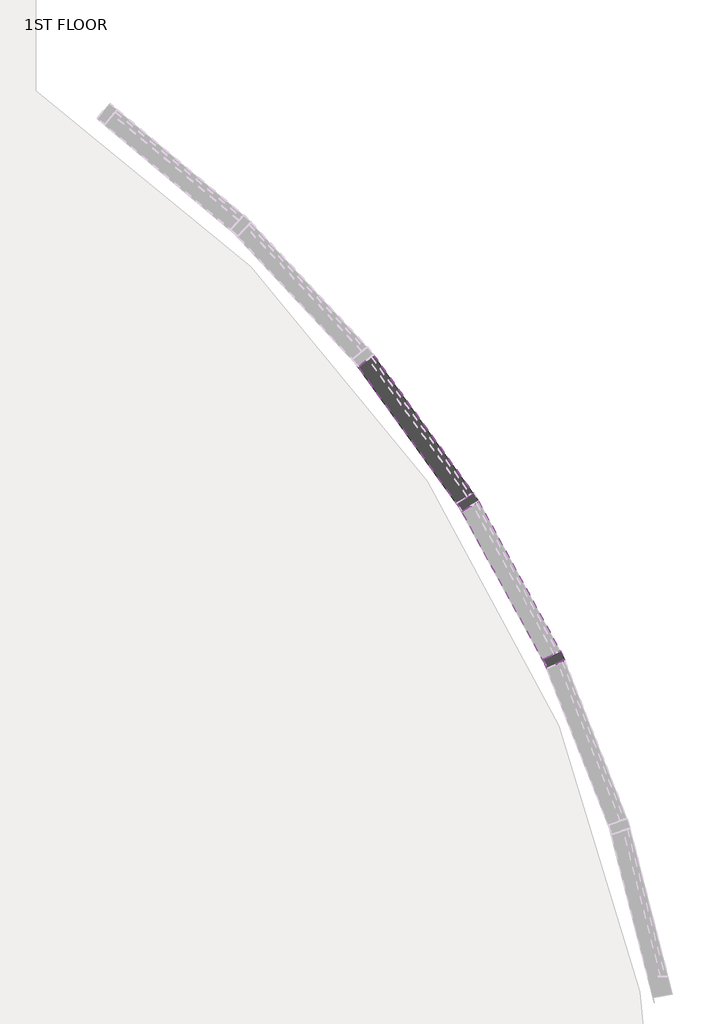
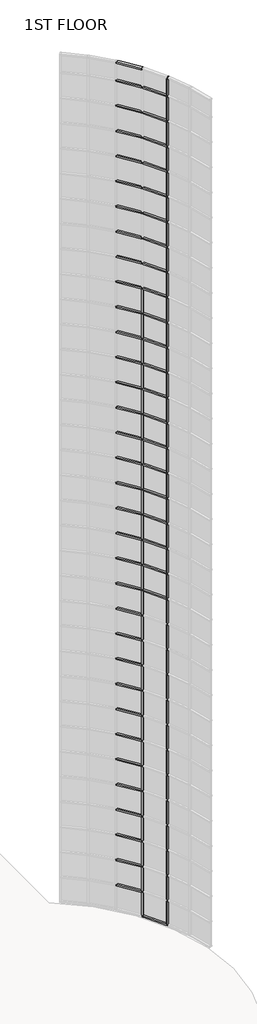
# One storey, part 11 of 17: 115 members.
"""IFC4 building model written with IfcOpenShell, lengths in millimetres."""

from ifc_helpers import new_model, si_unit, origin, place, context, project, spatial, transform, mapped, element, save
from components import member_56cb0dcd, member_0c249660, member_2b49869a, member_410c6227

model = new_model("IFC4")

# Units and contexts
model_context = context("Model", 3, world=origin())
ifc_project = project(units=[si_unit("LENGTHUNIT", "METRE", prefix="MILLI")], contexts=[model_context])

# Site, building, storey
site = spatial("IfcSite", under=ifc_project)
building = spatial("IfcBuilding", under=site)
storey = spatial("IfcBuildingStorey", under=building, Name="1ST FLOOR", Elevation=4572.0)

# Members
placement = place(None, origin())
member_shape = member_56cb0dcd(model_context)
element("IfcMember", 1, ObjectType="Rectangular Mullion : 2.5\" x 5\" rectangular", at=placement, inside=storey, context=model_context, shape_type="MappedRepresentation", body=[
    mapped(member_shape, transform((46823.3203616, 21903.4504082, 45720.0), x_axis=(0.0, 0.0, 1.0), y_axis=(-0.8110758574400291, -0.5849409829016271, 0.0), z_axis=(0.5849409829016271, -0.8110758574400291, 0.0))),
])
element("IfcMember", 2, ObjectType="Rectangular Mullion : 2.5\" x 5\" rectangular", at=placement, inside=storey, context=model_context, shape_type="MappedRepresentation", body=[
    mapped(member_shape, transform((46857.1097029, 21849.8331571, 4572.0), x_axis=(0.0, 0.0, -1.0), y_axis=(-0.8776564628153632, -0.4792902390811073, 0.0), z_axis=(-0.4792902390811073, 0.8776564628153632, 0.0))),
])
member_2_shape = member_0c249660(model_context)
element("IfcMember", 3, ObjectType="Rectangular Mullion : 2.5\" x 5\" rectangular", at=placement, inside=storey, context=model_context, shape_type="MappedRepresentation", body=[
    mapped(member_2_shape, transform((46823.3203616, 21903.4504082, 5791.2), x_axis=(0.0, 0.0, 1.0), y_axis=(-0.8110758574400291, -0.5849409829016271, 0.0), z_axis=(0.5849409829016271, -0.8110758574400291, 0.0))),
])
element("IfcMember", 4, ObjectType="Rectangular Mullion : 2.5\" x 5\" rectangular", at=placement, inside=storey, context=model_context, shape_type="MappedRepresentation", body=[
    mapped(member_2_shape, transform((46823.3203616, 21903.4504082, 7010.4), x_axis=(0.0, 0.0, 1.0), y_axis=(-0.8110758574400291, -0.5849409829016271, 0.0), z_axis=(0.5849409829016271, -0.8110758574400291, 0.0))),
])
element("IfcMember", 5, ObjectType="Rectangular Mullion : 2.5\" x 5\" rectangular", at=placement, inside=storey, context=model_context, shape_type="MappedRepresentation", body=[
    mapped(member_2_shape, transform((46823.3203616, 21903.4504082, 8229.6), x_axis=(0.0, 0.0, 1.0), y_axis=(-0.8110758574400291, -0.5849409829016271, 0.0), z_axis=(0.5849409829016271, -0.8110758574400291, 0.0))),
])
element("IfcMember", 6, ObjectType="Rectangular Mullion : 2.5\" x 5\" rectangular", at=placement, inside=storey, context=model_context, shape_type="MappedRepresentation", body=[
    mapped(member_2_shape, transform((46823.3203616, 21903.4504082, 9448.8), x_axis=(0.0, 0.0, 1.0), y_axis=(-0.8110758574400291, -0.5849409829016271, 0.0), z_axis=(0.5849409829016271, -0.8110758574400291, 0.0))),
])
element("IfcMember", 7, ObjectType="Rectangular Mullion : 2.5\" x 5\" rectangular", at=placement, inside=storey, context=model_context, shape_type="MappedRepresentation", body=[
    mapped(member_2_shape, transform((46823.3203616, 21903.4504082, 10668.0), x_axis=(0.0, 0.0, 1.0), y_axis=(-0.8110758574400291, -0.5849409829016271, 0.0), z_axis=(0.5849409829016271, -0.8110758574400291, 0.0))),
])
element("IfcMember", 8, ObjectType="Rectangular Mullion : 2.5\" x 5\" rectangular", at=placement, inside=storey, context=model_context, shape_type="MappedRepresentation", body=[
    mapped(member_2_shape, transform((46823.3203616, 21903.4504082, 11887.2), x_axis=(0.0, 0.0, 1.0), y_axis=(-0.8110758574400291, -0.5849409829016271, 0.0), z_axis=(0.5849409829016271, -0.8110758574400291, 0.0))),
])
element("IfcMember", 9, ObjectType="Rectangular Mullion : 2.5\" x 5\" rectangular", at=placement, inside=storey, context=model_context, shape_type="MappedRepresentation", body=[
    mapped(member_2_shape, transform((46823.3203616, 21903.4504082, 13106.4), x_axis=(0.0, 0.0, 1.0), y_axis=(-0.8110758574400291, -0.5849409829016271, 0.0), z_axis=(0.5849409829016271, -0.8110758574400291, 0.0))),
])
element("IfcMember", 10, ObjectType="Rectangular Mullion : 2.5\" x 5\" rectangular", at=placement, inside=storey, context=model_context, shape_type="MappedRepresentation", body=[
    mapped(member_2_shape, transform((46823.3203616, 21903.4504082, 14325.6), x_axis=(0.0, 0.0, 1.0), y_axis=(-0.8110758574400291, -0.5849409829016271, 0.0), z_axis=(0.5849409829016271, -0.8110758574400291, 0.0))),
])
element("IfcMember", 11, ObjectType="Rectangular Mullion : 2.5\" x 5\" rectangular", at=placement, inside=storey, context=model_context, shape_type="MappedRepresentation", body=[
    mapped(member_2_shape, transform((46823.3203616, 21903.4504082, 15544.8), x_axis=(0.0, 0.0, 1.0), y_axis=(-0.8110758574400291, -0.5849409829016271, 0.0), z_axis=(0.5849409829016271, -0.8110758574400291, 0.0))),
])
element("IfcMember", 12, ObjectType="Rectangular Mullion : 2.5\" x 5\" rectangular", at=placement, inside=storey, context=model_context, shape_type="MappedRepresentation", body=[
    mapped(member_2_shape, transform((46823.3203616, 21903.4504082, 16764.0), x_axis=(0.0, 0.0, 1.0), y_axis=(-0.8110758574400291, -0.5849409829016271, 0.0), z_axis=(0.5849409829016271, -0.8110758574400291, 0.0))),
])
element("IfcMember", 13, ObjectType="Rectangular Mullion : 2.5\" x 5\" rectangular", at=placement, inside=storey, context=model_context, shape_type="MappedRepresentation", body=[
    mapped(member_2_shape, transform((46823.3203616, 21903.4504082, 17983.2), x_axis=(0.0, 0.0, 1.0), y_axis=(-0.8110758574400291, -0.5849409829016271, 0.0), z_axis=(0.5849409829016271, -0.8110758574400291, 0.0))),
])
element("IfcMember", 14, ObjectType="Rectangular Mullion : 2.5\" x 5\" rectangular", at=placement, inside=storey, context=model_context, shape_type="MappedRepresentation", body=[
    mapped(member_2_shape, transform((46823.3203616, 21903.4504082, 19202.4), x_axis=(0.0, 0.0, 1.0), y_axis=(-0.8110758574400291, -0.5849409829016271, 0.0), z_axis=(0.5849409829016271, -0.8110758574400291, 0.0))),
])
element("IfcMember", 15, ObjectType="Rectangular Mullion : 2.5\" x 5\" rectangular", at=placement, inside=storey, context=model_context, shape_type="MappedRepresentation", body=[
    mapped(member_2_shape, transform((46823.3203616, 21903.4504082, 20421.6), x_axis=(0.0, 0.0, 1.0), y_axis=(-0.8110758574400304, -0.5849409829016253, 0.0), z_axis=(0.5849409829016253, -0.8110758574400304, 0.0))),
])
element("IfcMember", 16, ObjectType="Rectangular Mullion : 2.5\" x 5\" rectangular", at=placement, inside=storey, context=model_context, shape_type="MappedRepresentation", body=[
    mapped(member_2_shape, transform((47383.2901045, 20886.3133681, 20421.6), x_axis=(0.0, 0.0, 1.0), y_axis=(-0.87765646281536, -0.479290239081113, 0.0), z_axis=(0.479290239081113, -0.87765646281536, 0.0))),
])
element("IfcMember", 17, ObjectType="Rectangular Mullion : 2.5\" x 5\" rectangular", at=placement, inside=storey, context=model_context, shape_type="MappedRepresentation", body=[
    mapped(member_2_shape, transform((46823.3203616, 21903.4504082, 21640.8), x_axis=(0.0, 0.0, 1.0), y_axis=(-0.8110758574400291, -0.5849409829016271, 0.0), z_axis=(0.5849409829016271, -0.8110758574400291, 0.0))),
])
element("IfcMember", 18, ObjectType="Rectangular Mullion : 2.5\" x 5\" rectangular", at=placement, inside=storey, context=model_context, shape_type="MappedRepresentation", body=[
    mapped(member_2_shape, transform((47383.2901045, 20886.3133681, 21640.8), x_axis=(0.0, 0.0, 1.0), y_axis=(-0.8776564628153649, -0.47929023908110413, 0.0), z_axis=(0.47929023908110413, -0.8776564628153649, 0.0))),
])
element("IfcMember", 19, ObjectType="Rectangular Mullion : 2.5\" x 5\" rectangular", at=placement, inside=storey, context=model_context, shape_type="MappedRepresentation", body=[
    mapped(member_2_shape, transform((46823.3203616, 21903.4504082, 22860.0), x_axis=(0.0, 0.0, 1.0), y_axis=(-0.8110758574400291, -0.5849409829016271, 0.0), z_axis=(0.5849409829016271, -0.8110758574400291, 0.0))),
])
element("IfcMember", 20, ObjectType="Rectangular Mullion : 2.5\" x 5\" rectangular", at=placement, inside=storey, context=model_context, shape_type="MappedRepresentation", body=[
    mapped(member_2_shape, transform((47383.2901045, 20886.3133681, 22860.0), x_axis=(0.0, 0.0, 1.0), y_axis=(-0.8776564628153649, -0.47929023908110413, 0.0), z_axis=(0.47929023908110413, -0.8776564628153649, 0.0))),
])
element("IfcMember", 21, ObjectType="Rectangular Mullion : 2.5\" x 5\" rectangular", at=placement, inside=storey, context=model_context, shape_type="MappedRepresentation", body=[
    mapped(member_2_shape, transform((46823.3203616, 21903.4504082, 24079.2), x_axis=(0.0, 0.0, 1.0), y_axis=(-0.8110758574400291, -0.5849409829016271, 0.0), z_axis=(0.5849409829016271, -0.8110758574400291, 0.0))),
])
element("IfcMember", 22, ObjectType="Rectangular Mullion : 2.5\" x 5\" rectangular", at=placement, inside=storey, context=model_context, shape_type="MappedRepresentation", body=[
    mapped(member_2_shape, transform((47383.2901045, 20886.3133681, 24079.2), x_axis=(0.0, 0.0, 1.0), y_axis=(-0.8776564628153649, -0.47929023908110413, 0.0), z_axis=(0.47929023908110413, -0.8776564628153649, 0.0))),
])
element("IfcMember", 23, ObjectType="Rectangular Mullion : 2.5\" x 5\" rectangular", at=placement, inside=storey, context=model_context, shape_type="MappedRepresentation", body=[
    mapped(member_2_shape, transform((46823.3203616, 21903.4504082, 25298.4), x_axis=(0.0, 0.0, 1.0), y_axis=(-0.8110758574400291, -0.5849409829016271, 0.0), z_axis=(0.5849409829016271, -0.8110758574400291, 0.0))),
])
element("IfcMember", 24, ObjectType="Rectangular Mullion : 2.5\" x 5\" rectangular", at=placement, inside=storey, context=model_context, shape_type="MappedRepresentation", body=[
    mapped(member_2_shape, transform((47383.2901045, 20886.3133681, 25298.4), x_axis=(0.0, 0.0, 1.0), y_axis=(-0.8776564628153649, -0.47929023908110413, 0.0), z_axis=(0.47929023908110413, -0.8776564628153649, 0.0))),
])
element("IfcMember", 25, ObjectType="Rectangular Mullion : 2.5\" x 5\" rectangular", at=placement, inside=storey, context=model_context, shape_type="MappedRepresentation", body=[
    mapped(member_2_shape, transform((46823.3203616, 21903.4504082, 26517.6), x_axis=(0.0, 0.0, 1.0), y_axis=(-0.8110758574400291, -0.5849409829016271, 0.0), z_axis=(0.5849409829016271, -0.8110758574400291, 0.0))),
])
element("IfcMember", 26, ObjectType="Rectangular Mullion : 2.5\" x 5\" rectangular", at=placement, inside=storey, context=model_context, shape_type="MappedRepresentation", body=[
    mapped(member_2_shape, transform((47383.2901045, 20886.3133681, 26517.6), x_axis=(0.0, 0.0, 1.0), y_axis=(-0.87765646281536, -0.479290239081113, 0.0), z_axis=(0.479290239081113, -0.87765646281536, 0.0))),
])
element("IfcMember", 27, ObjectType="Rectangular Mullion : 2.5\" x 5\" rectangular", at=placement, inside=storey, context=model_context, shape_type="MappedRepresentation", body=[
    mapped(member_2_shape, transform((46823.3203616, 21903.4504082, 27736.8), x_axis=(0.0, 0.0, 1.0), y_axis=(-0.8110758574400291, -0.5849409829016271, 0.0), z_axis=(0.5849409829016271, -0.8110758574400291, 0.0))),
])
element("IfcMember", 28, ObjectType="Rectangular Mullion : 2.5\" x 5\" rectangular", at=placement, inside=storey, context=model_context, shape_type="MappedRepresentation", body=[
    mapped(member_2_shape, transform((47383.2901045, 20886.3133681, 27736.8), x_axis=(0.0, 0.0, 1.0), y_axis=(-0.87765646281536, -0.479290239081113, 0.0), z_axis=(0.479290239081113, -0.87765646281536, 0.0))),
])
element("IfcMember", 29, ObjectType="Rectangular Mullion : 2.5\" x 5\" rectangular", at=placement, inside=storey, context=model_context, shape_type="MappedRepresentation", body=[
    mapped(member_2_shape, transform((46823.3203616, 21903.4504082, 28956.0), x_axis=(0.0, 0.0, 1.0), y_axis=(-0.8110758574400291, -0.5849409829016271, 0.0), z_axis=(0.5849409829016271, -0.8110758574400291, 0.0))),
])
element("IfcMember", 30, ObjectType="Rectangular Mullion : 2.5\" x 5\" rectangular", at=placement, inside=storey, context=model_context, shape_type="MappedRepresentation", body=[
    mapped(member_2_shape, transform((47383.2901045, 20886.3133681, 28956.0), x_axis=(0.0, 0.0, 1.0), y_axis=(-0.8776564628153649, -0.47929023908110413, 0.0), z_axis=(0.47929023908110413, -0.8776564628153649, 0.0))),
])
element("IfcMember", 31, ObjectType="Rectangular Mullion : 2.5\" x 5\" rectangular", at=placement, inside=storey, context=model_context, shape_type="MappedRepresentation", body=[
    mapped(member_2_shape, transform((46823.3203616, 21903.4504082, 30175.2), x_axis=(0.0, 0.0, 1.0), y_axis=(-0.8110758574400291, -0.5849409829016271, 0.0), z_axis=(0.5849409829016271, -0.8110758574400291, 0.0))),
])
element("IfcMember", 32, ObjectType="Rectangular Mullion : 2.5\" x 5\" rectangular", at=placement, inside=storey, context=model_context, shape_type="MappedRepresentation", body=[
    mapped(member_2_shape, transform((47383.2901045, 20886.3133681, 30175.2), x_axis=(0.0, 0.0, 1.0), y_axis=(-0.8776564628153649, -0.47929023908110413, 0.0), z_axis=(0.47929023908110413, -0.8776564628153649, 0.0))),
])
element("IfcMember", 33, ObjectType="Rectangular Mullion : 2.5\" x 5\" rectangular", at=placement, inside=storey, context=model_context, shape_type="MappedRepresentation", body=[
    mapped(member_2_shape, transform((46823.3203616, 21903.4504082, 31394.4), x_axis=(0.0, 0.0, 1.0), y_axis=(-0.8110758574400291, -0.5849409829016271, 0.0), z_axis=(0.5849409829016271, -0.8110758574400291, 0.0))),
])
element("IfcMember", 34, ObjectType="Rectangular Mullion : 2.5\" x 5\" rectangular", at=placement, inside=storey, context=model_context, shape_type="MappedRepresentation", body=[
    mapped(member_2_shape, transform((47383.2901045, 20886.3133681, 31394.4), x_axis=(0.0, 0.0, 1.0), y_axis=(-0.8776564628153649, -0.47929023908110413, 0.0), z_axis=(0.47929023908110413, -0.8776564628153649, 0.0))),
])
element("IfcMember", 35, ObjectType="Rectangular Mullion : 2.5\" x 5\" rectangular", at=placement, inside=storey, context=model_context, shape_type="MappedRepresentation", body=[
    mapped(member_2_shape, transform((46823.3203616, 21903.4504082, 32613.6), x_axis=(0.0, 0.0, 1.0), y_axis=(-0.8110758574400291, -0.5849409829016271, 0.0), z_axis=(0.5849409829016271, -0.8110758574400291, 0.0))),
])
element("IfcMember", 36, ObjectType="Rectangular Mullion : 2.5\" x 5\" rectangular", at=placement, inside=storey, context=model_context, shape_type="MappedRepresentation", body=[
    mapped(member_2_shape, transform((47383.2901045, 20886.3133681, 32613.6), x_axis=(0.0, 0.0, 1.0), y_axis=(-0.87765646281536, -0.479290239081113, 0.0), z_axis=(0.479290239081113, -0.87765646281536, 0.0))),
])
element("IfcMember", 37, ObjectType="Rectangular Mullion : 2.5\" x 5\" rectangular", at=placement, inside=storey, context=model_context, shape_type="MappedRepresentation", body=[
    mapped(member_2_shape, transform((46823.3203616, 21903.4504082, 33832.8), x_axis=(0.0, 0.0, 1.0), y_axis=(-0.8110758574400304, -0.5849409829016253, 0.0), z_axis=(0.5849409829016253, -0.8110758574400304, 0.0))),
])
element("IfcMember", 38, ObjectType="Rectangular Mullion : 2.5\" x 5\" rectangular", at=placement, inside=storey, context=model_context, shape_type="MappedRepresentation", body=[
    mapped(member_2_shape, transform((47383.2901045, 20886.3133681, 33832.8), x_axis=(0.0, 0.0, 1.0), y_axis=(-0.87765646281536, -0.479290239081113, 0.0), z_axis=(0.479290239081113, -0.87765646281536, 0.0))),
])
element("IfcMember", 39, ObjectType="Rectangular Mullion : 2.5\" x 5\" rectangular", at=placement, inside=storey, context=model_context, shape_type="MappedRepresentation", body=[
    mapped(member_2_shape, transform((46823.3203616, 21903.4504082, 35052.0), x_axis=(0.0, 0.0, 1.0), y_axis=(-0.8110758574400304, -0.5849409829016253, 0.0), z_axis=(0.5849409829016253, -0.8110758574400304, 0.0))),
])
element("IfcMember", 40, ObjectType="Rectangular Mullion : 2.5\" x 5\" rectangular", at=placement, inside=storey, context=model_context, shape_type="MappedRepresentation", body=[
    mapped(member_2_shape, transform((47383.2901045, 20886.3133681, 35052.0), x_axis=(0.0, 0.0, 1.0), y_axis=(-0.8776564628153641, -0.47929023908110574, 0.0), z_axis=(0.4792902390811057, -0.877656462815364, 0.0))),
])
element("IfcMember", 41, ObjectType="Rectangular Mullion : 2.5\" x 5\" rectangular", at=placement, inside=storey, context=model_context, shape_type="MappedRepresentation", body=[
    mapped(member_2_shape, transform((46823.3203616, 21903.4504082, 36271.2), x_axis=(0.0, 0.0, 1.0), y_axis=(-0.8110758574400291, -0.5849409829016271, 0.0), z_axis=(0.5849409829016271, -0.8110758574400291, 0.0))),
])
element("IfcMember", 42, ObjectType="Rectangular Mullion : 2.5\" x 5\" rectangular", at=placement, inside=storey, context=model_context, shape_type="MappedRepresentation", body=[
    mapped(member_2_shape, transform((47383.2901045, 20886.3133681, 36271.2), x_axis=(0.0, 0.0, 1.0), y_axis=(-0.87765646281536, -0.479290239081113, 0.0), z_axis=(0.479290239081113, -0.87765646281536, 0.0))),
])
element("IfcMember", 43, ObjectType="Rectangular Mullion : 2.5\" x 5\" rectangular", at=placement, inside=storey, context=model_context, shape_type="MappedRepresentation", body=[
    mapped(member_2_shape, transform((46823.3203616, 21903.4504082, 37490.4), x_axis=(0.0, 0.0, 1.0), y_axis=(-0.8110758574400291, -0.5849409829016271, 0.0), z_axis=(0.5849409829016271, -0.8110758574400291, 0.0))),
])
element("IfcMember", 44, ObjectType="Rectangular Mullion : 2.5\" x 5\" rectangular", at=placement, inside=storey, context=model_context, shape_type="MappedRepresentation", body=[
    mapped(member_2_shape, transform((47383.2901045, 20886.3133681, 37490.4), x_axis=(0.0, 0.0, 1.0), y_axis=(-0.87765646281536, -0.479290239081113, 0.0), z_axis=(0.479290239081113, -0.87765646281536, 0.0))),
])
element("IfcMember", 45, ObjectType="Rectangular Mullion : 2.5\" x 5\" rectangular", at=placement, inside=storey, context=model_context, shape_type="MappedRepresentation", body=[
    mapped(member_2_shape, transform((46823.3203616, 21903.4504082, 38709.6), x_axis=(0.0, 0.0, 1.0), y_axis=(-0.8110758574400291, -0.5849409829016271, 0.0), z_axis=(0.5849409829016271, -0.8110758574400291, 0.0))),
])
element("IfcMember", 46, ObjectType="Rectangular Mullion : 2.5\" x 5\" rectangular", at=placement, inside=storey, context=model_context, shape_type="MappedRepresentation", body=[
    mapped(member_2_shape, transform((47383.2901045, 20886.3133681, 38709.6), x_axis=(0.0, 0.0, 1.0), y_axis=(-0.87765646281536, -0.479290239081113, 0.0), z_axis=(0.479290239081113, -0.87765646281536, 0.0))),
])
element("IfcMember", 47, ObjectType="Rectangular Mullion : 2.5\" x 5\" rectangular", at=placement, inside=storey, context=model_context, shape_type="MappedRepresentation", body=[
    mapped(member_2_shape, transform((46823.3203616, 21903.4504082, 39928.8), x_axis=(0.0, 0.0, 1.0), y_axis=(-0.8110758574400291, -0.5849409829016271, 0.0), z_axis=(0.5849409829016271, -0.8110758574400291, 0.0))),
])
element("IfcMember", 48, ObjectType="Rectangular Mullion : 2.5\" x 5\" rectangular", at=placement, inside=storey, context=model_context, shape_type="MappedRepresentation", body=[
    mapped(member_2_shape, transform((47383.2901045, 20886.3133681, 39928.8), x_axis=(0.0, 0.0, 1.0), y_axis=(-0.87765646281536, -0.479290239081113, 0.0), z_axis=(0.479290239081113, -0.87765646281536, 0.0))),
])
element("IfcMember", 49, ObjectType="Rectangular Mullion : 2.5\" x 5\" rectangular", at=placement, inside=storey, context=model_context, shape_type="MappedRepresentation", body=[
    mapped(member_2_shape, transform((46823.3203616, 21903.4504082, 41148.0), x_axis=(0.0, 0.0, 1.0), y_axis=(-0.8110758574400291, -0.5849409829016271, 0.0), z_axis=(0.5849409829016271, -0.8110758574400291, 0.0))),
])
element("IfcMember", 50, ObjectType="Rectangular Mullion : 2.5\" x 5\" rectangular", at=placement, inside=storey, context=model_context, shape_type="MappedRepresentation", body=[
    mapped(member_2_shape, transform((47383.2901045, 20886.3133681, 41148.0), x_axis=(0.0, 0.0, 1.0), y_axis=(-0.87765646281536, -0.479290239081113, 0.0), z_axis=(0.479290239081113, -0.87765646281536, 0.0))),
])
element("IfcMember", 51, ObjectType="Rectangular Mullion : 2.5\" x 5\" rectangular", at=placement, inside=storey, context=model_context, shape_type="MappedRepresentation", body=[
    mapped(member_2_shape, transform((46823.3203616, 21903.4504082, 42367.2), x_axis=(0.0, 0.0, 1.0), y_axis=(-0.8110758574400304, -0.5849409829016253, 0.0), z_axis=(0.5849409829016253, -0.8110758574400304, 0.0))),
])
element("IfcMember", 52, ObjectType="Rectangular Mullion : 2.5\" x 5\" rectangular", at=placement, inside=storey, context=model_context, shape_type="MappedRepresentation", body=[
    mapped(member_2_shape, transform((47383.2901045, 20886.3133681, 42367.2), x_axis=(0.0, 0.0, 1.0), y_axis=(-0.87765646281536, -0.479290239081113, 0.0), z_axis=(0.479290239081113, -0.87765646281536, 0.0))),
])
element("IfcMember", 53, ObjectType="Rectangular Mullion : 2.5\" x 5\" rectangular", at=placement, inside=storey, context=model_context, shape_type="MappedRepresentation", body=[
    mapped(member_2_shape, transform((46823.3203616, 21903.4504082, 43586.4), x_axis=(0.0, 0.0, 1.0), y_axis=(-0.8110758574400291, -0.5849409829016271, 0.0), z_axis=(0.5849409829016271, -0.8110758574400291, 0.0))),
])
element("IfcMember", 54, ObjectType="Rectangular Mullion : 2.5\" x 5\" rectangular", at=placement, inside=storey, context=model_context, shape_type="MappedRepresentation", body=[
    mapped(member_2_shape, transform((47383.2901045, 20886.3133681, 43586.4), x_axis=(0.0, 0.0, 1.0), y_axis=(-0.87765646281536, -0.479290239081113, 0.0), z_axis=(0.479290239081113, -0.87765646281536, 0.0))),
])
element("IfcMember", 55, ObjectType="Rectangular Mullion : 2.5\" x 5\" rectangular", at=placement, inside=storey, context=model_context, shape_type="MappedRepresentation", body=[
    mapped(member_2_shape, transform((46823.3203616, 21903.4504082, 44805.6), x_axis=(0.0, 0.0, 1.0), y_axis=(-0.8110758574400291, -0.5849409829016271, 0.0), z_axis=(0.5849409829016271, -0.8110758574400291, 0.0))),
])
element("IfcMember", 56, ObjectType="Rectangular Mullion : 2.5\" x 5\" rectangular", at=placement, inside=storey, context=model_context, shape_type="MappedRepresentation", body=[
    mapped(member_2_shape, transform((47383.2901045, 20886.3133681, 44805.6), x_axis=(0.0, 0.0, 1.0), y_axis=(-0.8776564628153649, -0.47929023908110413, 0.0), z_axis=(0.47929023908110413, -0.8776564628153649, 0.0))),
])
member_3_shape = member_2b49869a(model_context)
element("IfcMember", 57, ObjectType="Rectangular Mullion : 2.5\" x 5\" rectangular", at=placement, inside=storey, context=model_context, shape_type="MappedRepresentation", body=[
    mapped(member_3_shape, transform((46841.8922379, 21877.6987498, 4572.0), x_axis=(0.5331559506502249, -0.846016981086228, 0.0), y_axis=(-0.846016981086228, -0.5331559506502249, 0.0), z_axis=(0.0, 0.0, -1.0))),
])
element("IfcMember", 58, ObjectType="Rectangular Mullion : 2.5\" x 5\" rectangular", at=placement, inside=storey, context=model_context, shape_type="MappedRepresentation", body=[
    mapped(member_3_shape, transform((47398.5075696, 20858.4477754, 4572.0), x_axis=(0.42355406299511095, -0.9058708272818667, 0.0), y_axis=(-0.9058708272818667, -0.42355406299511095, 0.0), z_axis=(0.0, 0.0, -1.0))),
])
element("IfcMember", 59, ObjectType="Rectangular Mullion : 2.5\" x 5\" rectangular", at=placement, inside=storey, context=model_context, shape_type="MappedRepresentation", body=[
    mapped(member_3_shape, transform((46841.8922379, 21877.6987498, 5791.2), x_axis=(0.5331559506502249, -0.846016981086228, 0.0), y_axis=(-0.846016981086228, -0.5331559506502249, 0.0), z_axis=(0.0, 0.0, -1.0))),
])
element("IfcMember", 60, ObjectType="Rectangular Mullion : 2.5\" x 5\" rectangular", at=placement, inside=storey, context=model_context, shape_type="MappedRepresentation", body=[
    mapped(member_3_shape, transform((47398.5075696, 20858.4477754, 5791.2), x_axis=(0.42355406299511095, -0.9058708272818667, 0.0), y_axis=(-0.9058708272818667, -0.42355406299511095, 0.0), z_axis=(0.0, 0.0, -1.0))),
])
element("IfcMember", 61, ObjectType="Rectangular Mullion : 2.5\" x 5\" rectangular", at=placement, inside=storey, context=model_context, shape_type="MappedRepresentation", body=[
    mapped(member_3_shape, transform((46841.8922379, 21877.6987498, 7010.4), x_axis=(0.5331559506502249, -0.846016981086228, 0.0), y_axis=(-0.846016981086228, -0.5331559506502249, 0.0), z_axis=(0.0, 0.0, -1.0))),
])
element("IfcMember", 62, ObjectType="Rectangular Mullion : 2.5\" x 5\" rectangular", at=placement, inside=storey, context=model_context, shape_type="MappedRepresentation", body=[
    mapped(member_3_shape, transform((47398.5075696, 20858.4477754, 7010.4), x_axis=(0.4235540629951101, -0.9058708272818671, 0.0), y_axis=(-0.9058708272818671, -0.4235540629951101, 0.0), z_axis=(0.0, 0.0, -1.0))),
])
element("IfcMember", 63, ObjectType="Rectangular Mullion : 2.5\" x 5\" rectangular", at=placement, inside=storey, context=model_context, shape_type="MappedRepresentation", body=[
    mapped(member_3_shape, transform((46841.8922379, 21877.6987498, 8229.6), x_axis=(0.5331559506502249, -0.846016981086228, 0.0), y_axis=(-0.846016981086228, -0.5331559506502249, 0.0), z_axis=(0.0, 0.0, -1.0))),
])
element("IfcMember", 64, ObjectType="Rectangular Mullion : 2.5\" x 5\" rectangular", at=placement, inside=storey, context=model_context, shape_type="MappedRepresentation", body=[
    mapped(member_3_shape, transform((47398.5075696, 20858.4477754, 8229.6), x_axis=(0.42355406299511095, -0.9058708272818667, 0.0), y_axis=(-0.9058708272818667, -0.42355406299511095, 0.0), z_axis=(0.0, 0.0, -1.0))),
])
element("IfcMember", 65, ObjectType="Rectangular Mullion : 2.5\" x 5\" rectangular", at=placement, inside=storey, context=model_context, shape_type="MappedRepresentation", body=[
    mapped(member_3_shape, transform((46841.8922379, 21877.6987498, 9448.8), x_axis=(0.5331559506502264, -0.846016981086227, 0.0), y_axis=(-0.846016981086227, -0.5331559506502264, 0.0), z_axis=(0.0, 0.0, -1.0))),
])
element("IfcMember", 66, ObjectType="Rectangular Mullion : 2.5\" x 5\" rectangular", at=placement, inside=storey, context=model_context, shape_type="MappedRepresentation", body=[
    mapped(member_3_shape, transform((47398.5075696, 20858.4477754, 9448.8), x_axis=(0.4235540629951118, -0.9058708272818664, 0.0), y_axis=(-0.9058708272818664, -0.4235540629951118, 0.0), z_axis=(0.0, 0.0, -1.0))),
])
element("IfcMember", 67, ObjectType="Rectangular Mullion : 2.5\" x 5\" rectangular", at=placement, inside=storey, context=model_context, shape_type="MappedRepresentation", body=[
    mapped(member_3_shape, transform((46841.8922379, 21877.6987498, 10668.0), x_axis=(0.5331559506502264, -0.846016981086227, 0.0), y_axis=(-0.846016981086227, -0.5331559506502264, 0.0), z_axis=(0.0, 0.0, -1.0))),
])
element("IfcMember", 68, ObjectType="Rectangular Mullion : 2.5\" x 5\" rectangular", at=placement, inside=storey, context=model_context, shape_type="MappedRepresentation", body=[
    mapped(member_3_shape, transform((47398.5075696, 20858.4477754, 10668.0), x_axis=(0.4235540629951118, -0.9058708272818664, 0.0), y_axis=(-0.9058708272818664, -0.4235540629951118, 0.0), z_axis=(0.0, 0.0, -1.0))),
])
element("IfcMember", 69, ObjectType="Rectangular Mullion : 2.5\" x 5\" rectangular", at=placement, inside=storey, context=model_context, shape_type="MappedRepresentation", body=[
    mapped(member_3_shape, transform((46841.8922379, 21877.6987498, 11887.2), x_axis=(0.5331559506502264, -0.846016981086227, 0.0), y_axis=(-0.846016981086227, -0.5331559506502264, 0.0), z_axis=(0.0, 0.0, -1.0))),
])
element("IfcMember", 70, ObjectType="Rectangular Mullion : 2.5\" x 5\" rectangular", at=placement, inside=storey, context=model_context, shape_type="MappedRepresentation", body=[
    mapped(member_3_shape, transform((47398.5075696, 20858.4477754, 11887.2), x_axis=(0.4235540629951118, -0.9058708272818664, 0.0), y_axis=(-0.9058708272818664, -0.4235540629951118, 0.0), z_axis=(0.0, 0.0, -1.0))),
])
element("IfcMember", 71, ObjectType="Rectangular Mullion : 2.5\" x 5\" rectangular", at=placement, inside=storey, context=model_context, shape_type="MappedRepresentation", body=[
    mapped(member_3_shape, transform((46841.8922379, 21877.6987498, 13106.4), x_axis=(0.5331559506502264, -0.846016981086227, 0.0), y_axis=(-0.846016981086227, -0.5331559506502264, 0.0), z_axis=(0.0, 0.0, -1.0))),
])
element("IfcMember", 72, ObjectType="Rectangular Mullion : 2.5\" x 5\" rectangular", at=placement, inside=storey, context=model_context, shape_type="MappedRepresentation", body=[
    mapped(member_3_shape, transform((47398.5075696, 20858.4477754, 13106.4), x_axis=(0.4235540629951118, -0.9058708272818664, 0.0), y_axis=(-0.9058708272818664, -0.4235540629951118, 0.0), z_axis=(0.0, 0.0, -1.0))),
])
element("IfcMember", 73, ObjectType="Rectangular Mullion : 2.5\" x 5\" rectangular", at=placement, inside=storey, context=model_context, shape_type="MappedRepresentation", body=[
    mapped(member_3_shape, transform((46841.8922379, 21877.6987498, 14325.6), x_axis=(0.5331559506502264, -0.846016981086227, 0.0), y_axis=(-0.846016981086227, -0.5331559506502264, 0.0), z_axis=(0.0, 0.0, -1.0))),
])
element("IfcMember", 74, ObjectType="Rectangular Mullion : 2.5\" x 5\" rectangular", at=placement, inside=storey, context=model_context, shape_type="MappedRepresentation", body=[
    mapped(member_3_shape, transform((47398.5075696, 20858.4477754, 14325.6), x_axis=(0.4235540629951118, -0.9058708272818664, 0.0), y_axis=(-0.9058708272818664, -0.4235540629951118, 0.0), z_axis=(0.0, 0.0, -1.0))),
])
element("IfcMember", 75, ObjectType="Rectangular Mullion : 2.5\" x 5\" rectangular", at=placement, inside=storey, context=model_context, shape_type="MappedRepresentation", body=[
    mapped(member_3_shape, transform((46841.8922379, 21877.6987498, 15544.8), x_axis=(0.5331559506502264, -0.846016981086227, 0.0), y_axis=(-0.846016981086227, -0.5331559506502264, 0.0), z_axis=(0.0, 0.0, -1.0))),
])
element("IfcMember", 76, ObjectType="Rectangular Mullion : 2.5\" x 5\" rectangular", at=placement, inside=storey, context=model_context, shape_type="MappedRepresentation", body=[
    mapped(member_3_shape, transform((47398.5075696, 20858.4477754, 15544.8), x_axis=(0.4235540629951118, -0.9058708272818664, 0.0), y_axis=(-0.9058708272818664, -0.4235540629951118, 0.0), z_axis=(0.0, 0.0, -1.0))),
])
element("IfcMember", 77, ObjectType="Rectangular Mullion : 2.5\" x 5\" rectangular", at=placement, inside=storey, context=model_context, shape_type="MappedRepresentation", body=[
    mapped(member_3_shape, transform((46841.8922379, 21877.6987498, 16764.0), x_axis=(0.5331559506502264, -0.846016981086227, 0.0), y_axis=(-0.846016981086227, -0.5331559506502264, 0.0), z_axis=(0.0, 0.0, -1.0))),
])
element("IfcMember", 78, ObjectType="Rectangular Mullion : 2.5\" x 5\" rectangular", at=placement, inside=storey, context=model_context, shape_type="MappedRepresentation", body=[
    mapped(member_3_shape, transform((47398.5075696, 20858.4477754, 16764.0), x_axis=(0.4235540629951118, -0.9058708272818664, 0.0), y_axis=(-0.9058708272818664, -0.4235540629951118, 0.0), z_axis=(0.0, 0.0, -1.0))),
])
element("IfcMember", 79, ObjectType="Rectangular Mullion : 2.5\" x 5\" rectangular", at=placement, inside=storey, context=model_context, shape_type="MappedRepresentation", body=[
    mapped(member_3_shape, transform((46841.8922379, 21877.6987498, 17983.2), x_axis=(0.5331559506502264, -0.846016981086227, 0.0), y_axis=(-0.846016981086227, -0.5331559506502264, 0.0), z_axis=(0.0, 0.0, -1.0))),
])
element("IfcMember", 80, ObjectType="Rectangular Mullion : 2.5\" x 5\" rectangular", at=placement, inside=storey, context=model_context, shape_type="MappedRepresentation", body=[
    mapped(member_3_shape, transform((47398.5075696, 20858.4477754, 17983.2), x_axis=(0.4235540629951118, -0.9058708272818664, 0.0), y_axis=(-0.9058708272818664, -0.4235540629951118, 0.0), z_axis=(0.0, 0.0, -1.0))),
])
element("IfcMember", 81, ObjectType="Rectangular Mullion : 2.5\" x 5\" rectangular", at=placement, inside=storey, context=model_context, shape_type="MappedRepresentation", body=[
    mapped(member_3_shape, transform((46841.8922379, 21877.6987498, 19202.4), x_axis=(0.5331559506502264, -0.846016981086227, 0.0), y_axis=(-0.846016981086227, -0.5331559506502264, 0.0), z_axis=(0.0, 0.0, -1.0))),
])
element("IfcMember", 82, ObjectType="Rectangular Mullion : 2.5\" x 5\" rectangular", at=placement, inside=storey, context=model_context, shape_type="MappedRepresentation", body=[
    mapped(member_3_shape, transform((47398.5075696, 20858.4477754, 19202.4), x_axis=(0.4235540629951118, -0.9058708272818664, 0.0), y_axis=(-0.9058708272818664, -0.4235540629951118, 0.0), z_axis=(0.0, 0.0, -1.0))),
])
element("IfcMember", 83, ObjectType="Rectangular Mullion : 2.5\" x 5\" rectangular", at=placement, inside=storey, context=model_context, shape_type="MappedRepresentation", body=[
    mapped(member_3_shape, transform((46841.8922379, 21877.6987498, 20421.6), x_axis=(0.5331559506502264, -0.846016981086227, 0.0), y_axis=(-0.846016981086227, -0.5331559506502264, 0.0), z_axis=(0.0, 0.0, -1.0))),
])
element("IfcMember", 84, ObjectType="Rectangular Mullion : 2.5\" x 5\" rectangular", at=placement, inside=storey, context=model_context, shape_type="MappedRepresentation", body=[
    mapped(member_3_shape, transform((47398.5075696, 20858.4477754, 20421.6), x_axis=(0.4235540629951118, -0.9058708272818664, 0.0), y_axis=(-0.9058708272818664, -0.4235540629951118, 0.0), z_axis=(0.0, 0.0, -1.0))),
])
element("IfcMember", 85, ObjectType="Rectangular Mullion : 2.5\" x 5\" rectangular", at=placement, inside=storey, context=model_context, shape_type="MappedRepresentation", body=[
    mapped(member_3_shape, transform((46841.8922379, 21877.6987498, 21640.8), x_axis=(0.5331559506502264, -0.846016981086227, 0.0), y_axis=(-0.846016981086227, -0.5331559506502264, 0.0), z_axis=(0.0, 0.0, -1.0))),
])
element("IfcMember", 86, ObjectType="Rectangular Mullion : 2.5\" x 5\" rectangular", at=placement, inside=storey, context=model_context, shape_type="MappedRepresentation", body=[
    mapped(member_3_shape, transform((47398.5075696, 20858.4477754, 21640.8), x_axis=(0.42355406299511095, -0.9058708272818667, 0.0), y_axis=(-0.9058708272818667, -0.42355406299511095, 0.0), z_axis=(0.0, 0.0, -1.0))),
])
element("IfcMember", 87, ObjectType="Rectangular Mullion : 2.5\" x 5\" rectangular", at=placement, inside=storey, context=model_context, shape_type="MappedRepresentation", body=[
    mapped(member_3_shape, transform((46841.8922379, 21877.6987498, 22860.0), x_axis=(0.5331559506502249, -0.846016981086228, 0.0), y_axis=(-0.846016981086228, -0.5331559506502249, 0.0), z_axis=(0.0, 0.0, -1.0))),
])
element("IfcMember", 88, ObjectType="Rectangular Mullion : 2.5\" x 5\" rectangular", at=placement, inside=storey, context=model_context, shape_type="MappedRepresentation", body=[
    mapped(member_3_shape, transform((47398.5075696, 20858.4477754, 22860.0), x_axis=(0.42355406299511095, -0.9058708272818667, 0.0), y_axis=(-0.9058708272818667, -0.42355406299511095, 0.0), z_axis=(0.0, 0.0, -1.0))),
])
element("IfcMember", 89, ObjectType="Rectangular Mullion : 2.5\" x 5\" rectangular", at=placement, inside=storey, context=model_context, shape_type="MappedRepresentation", body=[
    mapped(member_3_shape, transform((46841.8922379, 21877.6987498, 24079.2), x_axis=(0.5331559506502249, -0.846016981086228, 0.0), y_axis=(-0.846016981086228, -0.5331559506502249, 0.0), z_axis=(0.0, 0.0, -1.0))),
])
element("IfcMember", 90, ObjectType="Rectangular Mullion : 2.5\" x 5\" rectangular", at=placement, inside=storey, context=model_context, shape_type="MappedRepresentation", body=[
    mapped(member_3_shape, transform((47398.5075696, 20858.4477754, 24079.2), x_axis=(0.42355406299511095, -0.9058708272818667, 0.0), y_axis=(-0.9058708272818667, -0.42355406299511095, 0.0), z_axis=(0.0, 0.0, -1.0))),
])
element("IfcMember", 91, ObjectType="Rectangular Mullion : 2.5\" x 5\" rectangular", at=placement, inside=storey, context=model_context, shape_type="MappedRepresentation", body=[
    mapped(member_3_shape, transform((46841.8922379, 21877.6987498, 25298.4), x_axis=(0.5331559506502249, -0.846016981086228, 0.0), y_axis=(-0.846016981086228, -0.5331559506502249, 0.0), z_axis=(0.0, 0.0, -1.0))),
])
element("IfcMember", 92, ObjectType="Rectangular Mullion : 2.5\" x 5\" rectangular", at=placement, inside=storey, context=model_context, shape_type="MappedRepresentation", body=[
    mapped(member_3_shape, transform((47398.5075696, 20858.4477754, 25298.4), x_axis=(0.42355406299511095, -0.9058708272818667, 0.0), y_axis=(-0.9058708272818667, -0.42355406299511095, 0.0), z_axis=(0.0, 0.0, -1.0))),
])
element("IfcMember", 93, ObjectType="Rectangular Mullion : 2.5\" x 5\" rectangular", at=placement, inside=storey, context=model_context, shape_type="MappedRepresentation", body=[
    mapped(member_3_shape, transform((46841.8922379, 21877.6987498, 26517.6), x_axis=(0.5331559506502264, -0.846016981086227, 0.0), y_axis=(-0.846016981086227, -0.5331559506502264, 0.0), z_axis=(0.0, 0.0, -1.0))),
])
element("IfcMember", 94, ObjectType="Rectangular Mullion : 2.5\" x 5\" rectangular", at=placement, inside=storey, context=model_context, shape_type="MappedRepresentation", body=[
    mapped(member_3_shape, transform((47398.5075696, 20858.4477754, 26517.6), x_axis=(0.4235540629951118, -0.9058708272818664, 0.0), y_axis=(-0.9058708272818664, -0.4235540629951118, 0.0), z_axis=(0.0, 0.0, -1.0))),
])
element("IfcMember", 95, ObjectType="Rectangular Mullion : 2.5\" x 5\" rectangular", at=placement, inside=storey, context=model_context, shape_type="MappedRepresentation", body=[
    mapped(member_3_shape, transform((46841.8922379, 21877.6987498, 27736.8), x_axis=(0.5331559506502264, -0.846016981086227, 0.0), y_axis=(-0.846016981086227, -0.5331559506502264, 0.0), z_axis=(0.0, 0.0, -1.0))),
])
element("IfcMember", 96, ObjectType="Rectangular Mullion : 2.5\" x 5\" rectangular", at=placement, inside=storey, context=model_context, shape_type="MappedRepresentation", body=[
    mapped(member_3_shape, transform((47398.5075696, 20858.4477754, 27736.8), x_axis=(0.4235540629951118, -0.9058708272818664, 0.0), y_axis=(-0.9058708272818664, -0.4235540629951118, 0.0), z_axis=(0.0, 0.0, -1.0))),
])
element("IfcMember", 97, ObjectType="Rectangular Mullion : 2.5\" x 5\" rectangular", at=placement, inside=storey, context=model_context, shape_type="MappedRepresentation", body=[
    mapped(member_3_shape, transform((46841.8922379, 21877.6987498, 28956.0), x_axis=(0.5331559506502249, -0.846016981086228, 0.0), y_axis=(-0.846016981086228, -0.5331559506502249, 0.0), z_axis=(0.0, 0.0, -1.0))),
])
element("IfcMember", 98, ObjectType="Rectangular Mullion : 2.5\" x 5\" rectangular", at=placement, inside=storey, context=model_context, shape_type="MappedRepresentation", body=[
    mapped(member_3_shape, transform((47398.5075696, 20858.4477754, 28956.0), x_axis=(0.42355406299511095, -0.9058708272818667, 0.0), y_axis=(-0.9058708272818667, -0.42355406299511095, 0.0), z_axis=(0.0, 0.0, -1.0))),
])
element("IfcMember", 99, ObjectType="Rectangular Mullion : 2.5\" x 5\" rectangular", at=placement, inside=storey, context=model_context, shape_type="MappedRepresentation", body=[
    mapped(member_3_shape, transform((46841.8922379, 21877.6987498, 30175.2), x_axis=(0.5331559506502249, -0.846016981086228, 0.0), y_axis=(-0.846016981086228, -0.5331559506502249, 0.0), z_axis=(0.0, 0.0, -1.0))),
])
element("IfcMember", 100, ObjectType="Rectangular Mullion : 2.5\" x 5\" rectangular", at=placement, inside=storey, context=model_context, shape_type="MappedRepresentation", body=[
    mapped(member_3_shape, transform((47398.5075696, 20858.4477754, 30175.2), x_axis=(0.4235540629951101, -0.9058708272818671, 0.0), y_axis=(-0.9058708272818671, -0.4235540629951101, 0.0), z_axis=(0.0, 0.0, -1.0))),
])
element("IfcMember", 101, ObjectType="Rectangular Mullion : 2.5\" x 5\" rectangular", at=placement, inside=storey, context=model_context, shape_type="MappedRepresentation", body=[
    mapped(member_3_shape, transform((46841.8922379, 21877.6987498, 31394.4), x_axis=(0.5331559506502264, -0.846016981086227, 0.0), y_axis=(-0.846016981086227, -0.5331559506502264, 0.0), z_axis=(0.0, 0.0, -1.0))),
])
element("IfcMember", 102, ObjectType="Rectangular Mullion : 2.5\" x 5\" rectangular", at=placement, inside=storey, context=model_context, shape_type="MappedRepresentation", body=[
    mapped(member_3_shape, transform((47398.5075696, 20858.4477754, 31394.4), x_axis=(0.42355406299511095, -0.9058708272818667, 0.0), y_axis=(-0.9058708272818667, -0.42355406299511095, 0.0), z_axis=(0.0, 0.0, -1.0))),
])
element("IfcMember", 103, ObjectType="Rectangular Mullion : 2.5\" x 5\" rectangular", at=placement, inside=storey, context=model_context, shape_type="MappedRepresentation", body=[
    mapped(member_3_shape, transform((46841.8922379, 21877.6987498, 32613.6), x_axis=(0.5331559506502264, -0.846016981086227, 0.0), y_axis=(-0.846016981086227, -0.5331559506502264, 0.0), z_axis=(0.0, 0.0, -1.0))),
])
element("IfcMember", 104, ObjectType="Rectangular Mullion : 2.5\" x 5\" rectangular", at=placement, inside=storey, context=model_context, shape_type="MappedRepresentation", body=[
    mapped(member_3_shape, transform((47398.5075696, 20858.4477754, 32613.6), x_axis=(0.4235540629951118, -0.9058708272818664, 0.0), y_axis=(-0.9058708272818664, -0.4235540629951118, 0.0), z_axis=(0.0, 0.0, -1.0))),
])
element("IfcMember", 105, ObjectType="Rectangular Mullion : 2.5\" x 5\" rectangular", at=placement, inside=storey, context=model_context, shape_type="MappedRepresentation", body=[
    mapped(member_3_shape, transform((46841.8922379, 21877.6987498, 33832.8), x_axis=(0.5331559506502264, -0.846016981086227, 0.0), y_axis=(-0.846016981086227, -0.5331559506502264, 0.0), z_axis=(0.0, 0.0, -1.0))),
])
element("IfcMember", 106, ObjectType="Rectangular Mullion : 2.5\" x 5\" rectangular", at=placement, inside=storey, context=model_context, shape_type="MappedRepresentation", body=[
    mapped(member_3_shape, transform((47398.5075696, 20858.4477754, 33832.8), x_axis=(0.4235540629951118, -0.9058708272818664, 0.0), y_axis=(-0.9058708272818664, -0.4235540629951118, 0.0), z_axis=(0.0, 0.0, -1.0))),
])
element("IfcMember", 107, ObjectType="Rectangular Mullion : 2.5\" x 5\" rectangular", at=placement, inside=storey, context=model_context, shape_type="MappedRepresentation", body=[
    mapped(member_3_shape, transform((47398.5075696, 20858.4477754, 35052.0), x_axis=(0.4235540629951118, -0.9058708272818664, 0.0), y_axis=(-0.9058708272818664, -0.4235540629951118, 0.0), z_axis=(0.0, 0.0, -1.0))),
])
element("IfcMember", 108, ObjectType="Rectangular Mullion : 2.5\" x 5\" rectangular", at=placement, inside=storey, context=model_context, shape_type="MappedRepresentation", body=[
    mapped(member_3_shape, transform((47398.5075696, 20858.4477754, 36271.2), x_axis=(0.4235540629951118, -0.9058708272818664, 0.0), y_axis=(-0.9058708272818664, -0.4235540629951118, 0.0), z_axis=(0.0, 0.0, -1.0))),
])
element("IfcMember", 109, ObjectType="Rectangular Mullion : 2.5\" x 5\" rectangular", at=placement, inside=storey, context=model_context, shape_type="MappedRepresentation", body=[
    mapped(member_3_shape, transform((47398.5075696, 20858.4477754, 37490.4), x_axis=(0.4235540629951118, -0.9058708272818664, 0.0), y_axis=(-0.9058708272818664, -0.4235540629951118, 0.0), z_axis=(0.0, 0.0, -1.0))),
])
element("IfcMember", 110, ObjectType="Rectangular Mullion : 2.5\" x 5\" rectangular", at=placement, inside=storey, context=model_context, shape_type="MappedRepresentation", body=[
    mapped(member_3_shape, transform((47398.5075696, 20858.4477754, 38709.6), x_axis=(0.4235540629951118, -0.9058708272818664, 0.0), y_axis=(-0.9058708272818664, -0.4235540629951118, 0.0), z_axis=(0.0, 0.0, -1.0))),
])
element("IfcMember", 111, ObjectType="Rectangular Mullion : 2.5\" x 5\" rectangular", at=placement, inside=storey, context=model_context, shape_type="MappedRepresentation", body=[
    mapped(member_3_shape, transform((47398.5075696, 20858.4477754, 39928.8), x_axis=(0.4235540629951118, -0.9058708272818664, 0.0), y_axis=(-0.9058708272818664, -0.4235540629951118, 0.0), z_axis=(0.0, 0.0, -1.0))),
])
element("IfcMember", 112, ObjectType="Rectangular Mullion : 2.5\" x 5\" rectangular", at=placement, inside=storey, context=model_context, shape_type="MappedRepresentation", body=[
    mapped(member_3_shape, transform((47398.5075696, 20858.4477754, 41148.0), x_axis=(0.4235540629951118, -0.9058708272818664, 0.0), y_axis=(-0.9058708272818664, -0.4235540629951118, 0.0), z_axis=(0.0, 0.0, -1.0))),
])
element("IfcMember", 113, ObjectType="Rectangular Mullion : 2.5\" x 5\" rectangular", at=placement, inside=storey, context=model_context, shape_type="MappedRepresentation", body=[
    mapped(member_3_shape, transform((47398.5075696, 20858.4477754, 42367.2), x_axis=(0.4235540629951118, -0.9058708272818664, 0.0), y_axis=(-0.9058708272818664, -0.4235540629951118, 0.0), z_axis=(0.0, 0.0, -1.0))),
])
element("IfcMember", 114, ObjectType="Rectangular Mullion : 2.5\" x 5\" rectangular", at=placement, inside=storey, context=model_context, shape_type="MappedRepresentation", body=[
    mapped(member_3_shape, transform((47398.5075696, 20858.4477754, 43586.4), x_axis=(0.4235540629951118, -0.9058708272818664, 0.0), y_axis=(-0.9058708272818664, -0.4235540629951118, 0.0), z_axis=(0.0, 0.0, -1.0))),
])
member_4_shape = member_410c6227(model_context)
element("IfcMember", 115, ObjectType="Rectangular Mullion : 2.5\" x 5\" rectangular", at=placement, inside=storey, context=model_context, shape_type="MappedRepresentation", body=[
    mapped(member_4_shape, transform((47398.5075696, 20858.4477754, 44805.6), x_axis=(0.42355406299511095, -0.9058708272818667, 0.0), y_axis=(-0.9058708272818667, -0.42355406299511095, 0.0), z_axis=(0.0, 0.0, -1.0))),
])

save(model, "model.ifc")
